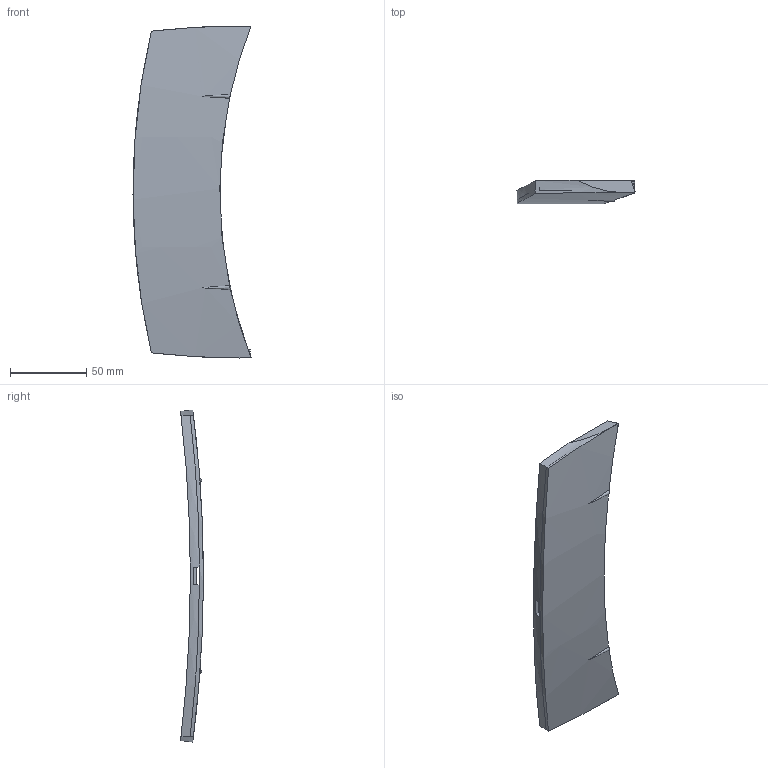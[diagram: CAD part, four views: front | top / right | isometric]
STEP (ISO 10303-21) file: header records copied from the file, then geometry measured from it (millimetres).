
FILE_DESCRIPTION (( 'STEP AP214' ), '1' );
FILE_NAME ('Lateral PP104.STEP', '2017-11-24T15:23:07', ( 'aaa' ), ( '' ), 'SwSTEP 2.0', 'SolidWorks 2013', '' );
FILE_SCHEMA (( 'AUTOMOTIVE_DESIGN' ));
Length unit declared in the file: millimetre
Products named in the file (1): Lateral PP104
Bounding box: 77.48 x 15.04 x 218 mm (x, y, z)
Volume: 31013.2 mm3; surface area: 31729.4 mm2
Topology: 1 solids, 1 shells, 53 faces, 145 edges, 90 vertices
Faces by surface type: plane 29, bspline 15, cylinder 6, cone 2, torus 1
Entity records: 2339 total; most frequent: CARTESIAN_POINT 1185, ORIENTED_EDGE 282, DIRECTION 156, EDGE_CURVE 141, VERTEX_POINT 90, LINE 66, VECTOR 66, B_SPLINE_CURVE_WITH_KNOTS 57
